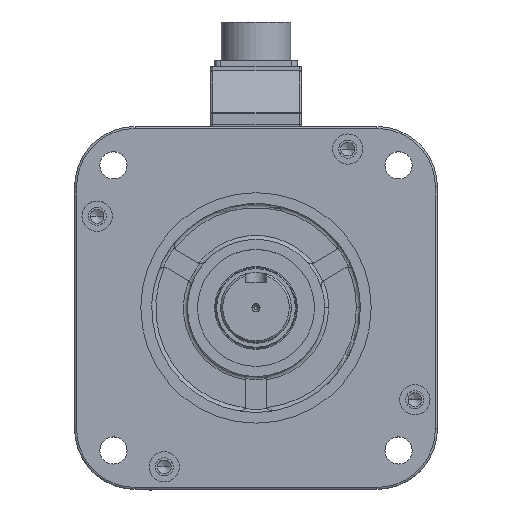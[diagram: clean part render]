
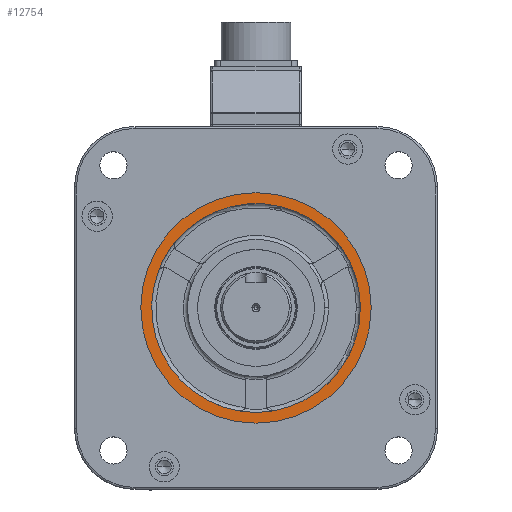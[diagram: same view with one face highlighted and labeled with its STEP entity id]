
A CAD part, top view. The second image highlights one B-rep face of the part: STEP entity #12754.
In plain terms, the highlighted planar face has unit normal (0, 0, 1).
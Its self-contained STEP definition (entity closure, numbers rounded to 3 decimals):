
#99 = AXIS2_PLACEMENT_3D ( 'NONE', #4956, #54666, #36682 ) ;
#462 = VERTEX_POINT ( 'NONE', #3102 ) ;
#2813 = VERTEX_POINT ( 'NONE', #17083 ) ;
#3016 = CARTESIAN_POINT ( 'NONE',  ( -57.15, 0., 21. ) ) ;
#3102 = CARTESIAN_POINT ( 'NONE',  ( 48.455, 18.17, 21. ) ) ;
#3574 = CARTESIAN_POINT ( 'NONE',  ( 0., 0., 21. ) ) ;
#4956 = CARTESIAN_POINT ( 'NONE',  ( 0., 0., 21. ) ) ;
#5062 = CARTESIAN_POINT ( 'NONE',  ( 39.963, 32.879, 21. ) ) ;
#5293 = DIRECTION ( 'NONE',  ( 0., 0., 1. ) ) ;
#7748 = CARTESIAN_POINT ( 'NONE',  ( 0., 0., 21. ) ) ;
#8484 = EDGE_CURVE ( 'NONE', #15070, #18027, #18013, .T. ) ;
#11041 = AXIS2_PLACEMENT_3D ( 'NONE', #16692, #49305, #34949 ) ;
#12754 = ADVANCED_FACE ( 'NONE', ( #35871, #31377 ), #49630, .T. ) ;
#12988 = VERTEX_POINT ( 'NONE', #21441 ) ;
#13125 = DIRECTION ( 'NONE',  ( 0., 0., 1. ) ) ;
#13528 = EDGE_CURVE ( 'NONE', #20649, #55874, #26883, .T. ) ;
#14723 = CARTESIAN_POINT ( 'NONE',  ( 0., 0., 21. ) ) ;
#15070 = VERTEX_POINT ( 'NONE', #36620 ) ;
#16100 = CIRCLE ( 'NONE', #45709, 51.75 ) ;
#16491 = ORIENTED_EDGE ( 'NONE', *, *, #46133, .T. ) ;
#16692 = CARTESIAN_POINT ( 'NONE',  ( 0., 0., 21. ) ) ;
#17083 = CARTESIAN_POINT ( 'NONE',  ( 57.15, 0., 21. ) ) ;
#17375 = ORIENTED_EDGE ( 'NONE', *, *, #37088, .T. ) ;
#18013 = CIRCLE ( 'NONE', #56243, 51.75 ) ;
#18018 = CARTESIAN_POINT ( 'NONE',  ( 0., 0., 21. ) ) ;
#18027 = VERTEX_POINT ( 'NONE', #45733 ) ;
#18620 = DIRECTION ( 'NONE',  ( 0., 0., 1. ) ) ;
#19048 = CIRCLE ( 'NONE', #48736, 51.75 ) ;
#20579 = EDGE_CURVE ( 'NONE', #462, #28107, #16100, .T. ) ;
#20613 = DIRECTION ( 'NONE',  ( 0., 0., 1. ) ) ;
#20649 = VERTEX_POINT ( 'NONE', #33756 ) ;
#20693 = ORIENTED_EDGE ( 'NONE', *, *, #13528, .F. ) ;
#21441 = CARTESIAN_POINT ( 'NONE',  ( -39.963, 32.879, 21. ) ) ;
#22366 = DIRECTION ( 'NONE',  ( 0., 0., 1. ) ) ;
#24019 = DIRECTION ( 'NONE',  ( 0., 0., 1. ) ) ;
#24602 = ORIENTED_EDGE ( 'NONE', *, *, #31089, .F. ) ;
#25241 = VERTEX_POINT ( 'NONE', #3016 ) ;
#26560 = ORIENTED_EDGE ( 'NONE', *, *, #20579, .F. ) ;
#26830 = CARTESIAN_POINT ( 'NONE',  ( 0., 0., 21. ) ) ;
#26883 = CIRCLE ( 'NONE', #48898, 51.75 ) ;
#27753 = DIRECTION ( 'NONE',  ( 1., 0., 0. ) ) ;
#28107 = VERTEX_POINT ( 'NONE', #5062 ) ;
#28189 = EDGE_CURVE ( 'NONE', #12988, #20649, #19048, .T. ) ;
#29599 = ORIENTED_EDGE ( 'NONE', *, *, #28189, .F. ) ;
#29892 = DIRECTION ( 'NONE',  ( 1., 0., 0. ) ) ;
#31089 = EDGE_CURVE ( 'NONE', #18027, #462, #32597, .T. ) ;
#31377 = FACE_OUTER_BOUND ( 'NONE', #43945, .T. ) ;
#32597 = CIRCLE ( 'NONE', #52704, 51.75 ) ;
#32801 = CIRCLE ( 'NONE', #51970, 51.75 ) ;
#33180 = CIRCLE ( 'NONE', #40829, 57.15 ) ;
#33756 = CARTESIAN_POINT ( 'NONE',  ( -48.455, 18.17, 21. ) ) ;
#33785 = CARTESIAN_POINT ( 'NONE',  ( 0., 0., 21. ) ) ;
#34949 = DIRECTION ( 'NONE',  ( 1., 0., 0. ) ) ;
#35871 = FACE_BOUND ( 'NONE', #39772, .T. ) ;
#36620 = CARTESIAN_POINT ( 'NONE',  ( 8.492, -51.048, 21. ) ) ;
#36682 = DIRECTION ( 'NONE',  ( 1., 0., 0. ) ) ;
#36732 = CARTESIAN_POINT ( 'NONE',  ( 0., 0., 21. ) ) ;
#37088 = EDGE_CURVE ( 'NONE', #25241, #2813, #58442, .T. ) ;
#39772 = EDGE_LOOP ( 'NONE', ( #26560, #24602, #39847, #57152, #20693, #29599, #45650 ) ) ;
#39847 = ORIENTED_EDGE ( 'NONE', *, *, #8484, .F. ) ;
#40402 = DIRECTION ( 'NONE',  ( 1., 0., 0. ) ) ;
#40625 = DIRECTION ( 'NONE',  ( 1., 0., 0. ) ) ;
#40732 = CARTESIAN_POINT ( 'NONE',  ( -8.492, -51.048, 21. ) ) ;
#40829 = AXIS2_PLACEMENT_3D ( 'NONE', #49603, #22366, #40625 ) ;
#42873 = DIRECTION ( 'NONE',  ( 1., 0., 0. ) ) ;
#43945 = EDGE_LOOP ( 'NONE', ( #17375, #16491 ) ) ;
#43984 = DIRECTION ( 'NONE',  ( 1., 0., 0. ) ) ;
#44229 = DIRECTION ( 'NONE',  ( 0., 0., 1. ) ) ;
#44285 = DIRECTION ( 'NONE',  ( 0., 0., 1. ) ) ;
#44796 = EDGE_CURVE ( 'NONE', #28107, #12988, #48374, .T. ) ;
#44804 = DIRECTION ( 'NONE',  ( 1., 0., 0. ) ) ;
#45650 = ORIENTED_EDGE ( 'NONE', *, *, #44796, .F. ) ;
#45709 = AXIS2_PLACEMENT_3D ( 'NONE', #36732, #5293, #27753 ) ;
#45733 = CARTESIAN_POINT ( 'NONE',  ( 51.75, 0., 21. ) ) ;
#46133 = EDGE_CURVE ( 'NONE', #2813, #25241, #33180, .T. ) ;
#48374 = CIRCLE ( 'NONE', #11041, 51.75 ) ;
#48736 = AXIS2_PLACEMENT_3D ( 'NONE', #33785, #20613, #29892 ) ;
#48898 = AXIS2_PLACEMENT_3D ( 'NONE', #26830, #44229, #44804 ) ;
#49305 = DIRECTION ( 'NONE',  ( 0., 0., 1. ) ) ;
#49603 = CARTESIAN_POINT ( 'NONE',  ( 0., 0., 21. ) ) ;
#49630 = PLANE ( 'NONE',  #51671 ) ;
#50654 = DIRECTION ( 'NONE',  ( 1., 0., 0. ) ) ;
#51671 = AXIS2_PLACEMENT_3D ( 'NONE', #7748, #44285, #43984 ) ;
#51970 = AXIS2_PLACEMENT_3D ( 'NONE', #14723, #24019, #42873 ) ;
#52704 = AXIS2_PLACEMENT_3D ( 'NONE', #18018, #18620, #50654 ) ;
#54666 = DIRECTION ( 'NONE',  ( 0., 0., 1. ) ) ;
#55874 = VERTEX_POINT ( 'NONE', #40732 ) ;
#56243 = AXIS2_PLACEMENT_3D ( 'NONE', #3574, #13125, #40402 ) ;
#57152 = ORIENTED_EDGE ( 'NONE', *, *, #58246, .F. ) ;
#58246 = EDGE_CURVE ( 'NONE', #55874, #15070, #32801, .T. ) ;
#58442 = CIRCLE ( 'NONE', #99, 57.15 ) ;
